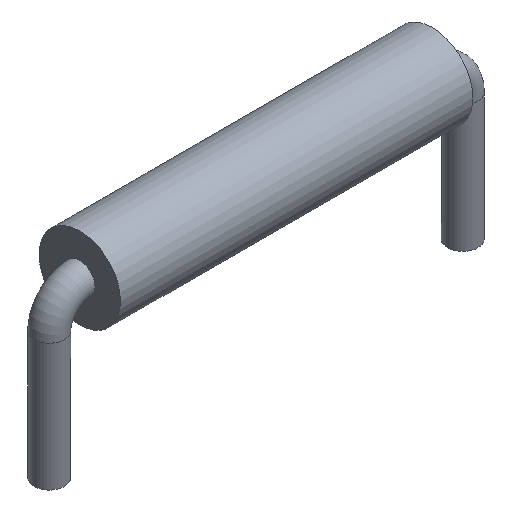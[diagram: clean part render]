
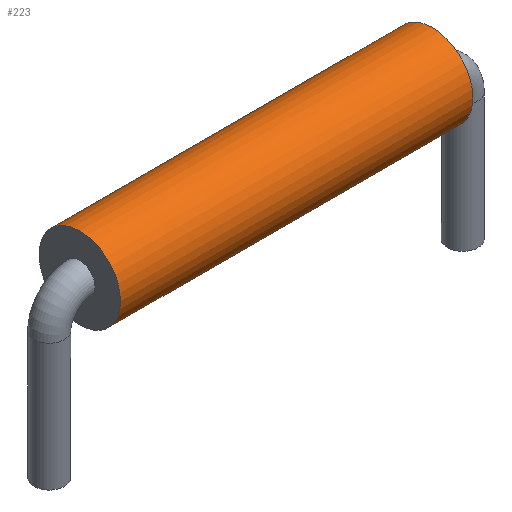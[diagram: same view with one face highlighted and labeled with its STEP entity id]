
A CAD part, isometric view. The second image highlights one B-rep face of the part: STEP entity #223.
In plain terms, the highlighted cylindrical face has radius 0.8 mm (diameter 1.6 mm), a full revolution.
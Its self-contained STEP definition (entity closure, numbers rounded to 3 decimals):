
#210 = EDGE_CURVE('',#211,#211,#213,.T.);
#211 = VERTEX_POINT('',#212);
#212 = CARTESIAN_POINT('',(0.6,0.8,0.95));
#213 = CIRCLE('',#214,0.8);
#214 = AXIS2_PLACEMENT_3D('',#215,#216,#217);
#215 = CARTESIAN_POINT('',(0.6,0.,
    0.95));
#216 = DIRECTION('',(1.,0.,0.));
#217 = DIRECTION('',(0.,1.,0.));
#223 = ADVANCED_FACE('',(#224),#243,.T.);
#224 = FACE_BOUND('',#225,.T.);
#225 = EDGE_LOOP('',(#226,#234,#241,#242));
#226 = ORIENTED_EDGE('',*,*,#227,.T.);
#227 = EDGE_CURVE('',#211,#228,#230,.T.);
#228 = VERTEX_POINT('',#229);
#229 = CARTESIAN_POINT('',(7.53,0.8,0.95));
#230 = LINE('',#231,#232);
#231 = CARTESIAN_POINT('',(0.6,0.8,0.95));
#232 = VECTOR('',#233,1.);
#233 = DIRECTION('',(1.,0.,0.));
#234 = ORIENTED_EDGE('',*,*,#235,.F.);
#235 = EDGE_CURVE('',#228,#228,#236,.T.);
#236 = CIRCLE('',#237,0.8);
#237 = AXIS2_PLACEMENT_3D('',#238,#239,#240);
#238 = CARTESIAN_POINT('',(7.53,0.,
    0.95));
#239 = DIRECTION('',(1.,0.,0.));
#240 = DIRECTION('',(0.,1.,0.));
#241 = ORIENTED_EDGE('',*,*,#227,.F.);
#242 = ORIENTED_EDGE('',*,*,#210,.T.);
#243 = CYLINDRICAL_SURFACE('',#244,0.8);
#244 = AXIS2_PLACEMENT_3D('',#245,#246,#247);
#245 = CARTESIAN_POINT('',(0.6,0.,
    0.95));
#246 = DIRECTION('',(1.,0.,0.));
#247 = DIRECTION('',(0.,1.,0.));
